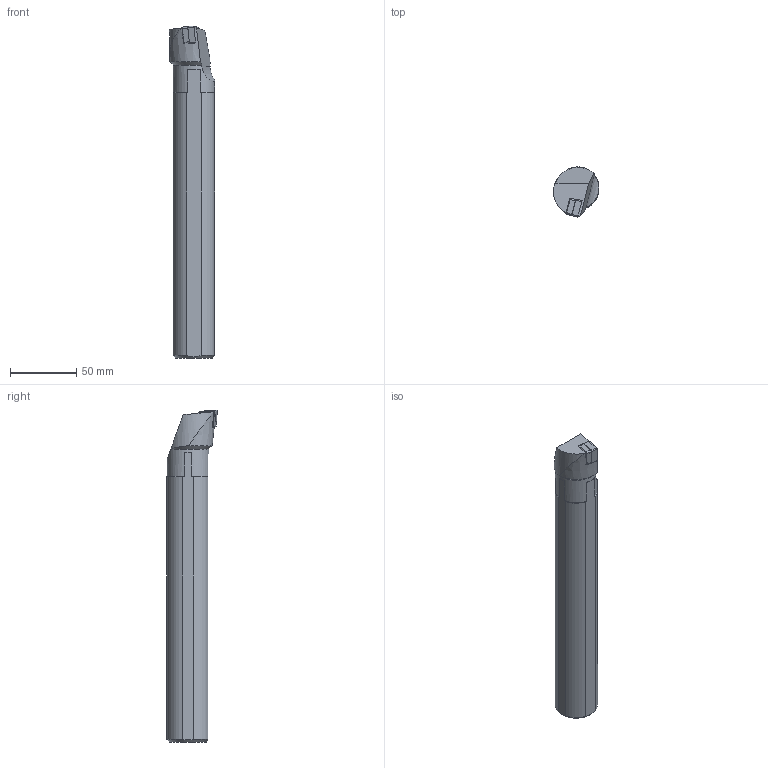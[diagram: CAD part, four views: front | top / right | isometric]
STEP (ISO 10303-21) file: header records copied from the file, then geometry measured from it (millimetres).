
FILE_DESCRIPTION(/* description */ (''),/* implementation_level */ '2;1');
FILE_NAME(/* name */ 'A32S-MCLNR-12-HAAS_210825.stp',/* time_stamp */ '2021-09-30T17:03:53+09:00',/* author */ (''),/* organization */ (''),/* preprocessor_version */ 'ST-DEVELOPER v15',/* originating_system */ 'SIEMENS PLM Software NX 8.5',/* authorisation */ '');
FILE_SCHEMA (('AP203_CONFIGURATION_CONTROLLED_3D_DESIGN_OF_MECHANICAL_PARTS_AND_ASSEMBLIES_MIM_LF { 1 0 10303 403 2 1 2}'));
Length unit declared in the file: millimetre
Products named in the file (1): userF2984F2A8mas
Bounding box: 33.91 x 38 x 250 mm (x, y, z)
Volume: 190509.9 mm3; surface area: 27036.1 mm2
Topology: 3 solids, 3 shells, 58 faces, 143 edges, 92 vertices
Faces by surface type: plane 26, cylinder 17, cone 13, bspline 1, torus 1
Full cylindrical faces by diameter (mm): 5.16 x1, 7.34 x1, 8 x1
Entity records: 1856 total; most frequent: CARTESIAN_POINT 420, DIRECTION 282, ORIENTED_EDGE 268, EDGE_CURVE 134, AXIS2_PLACEMENT_3D 110, VERTEX_POINT 90, EDGE_LOOP 70, LINE 62
